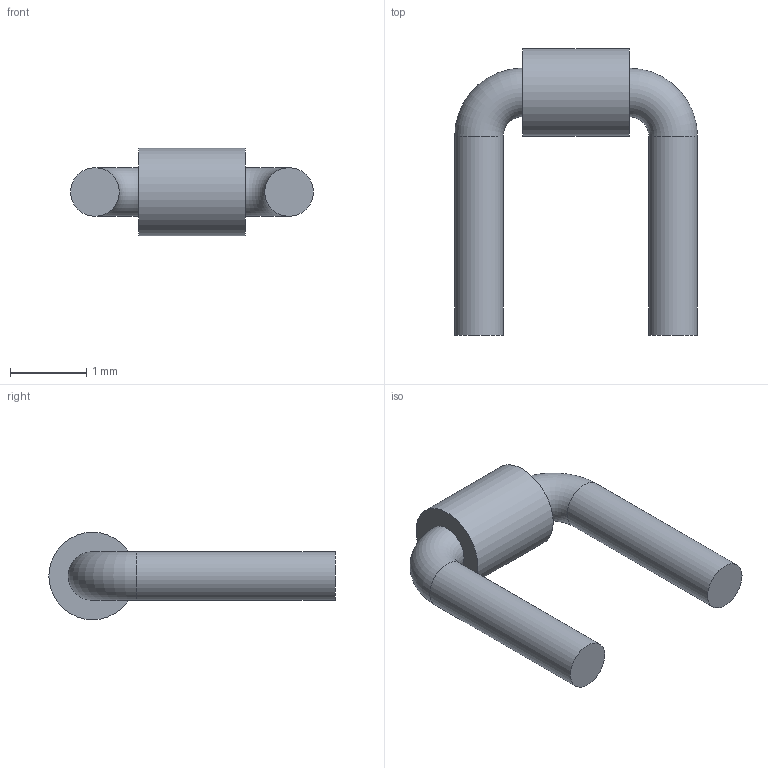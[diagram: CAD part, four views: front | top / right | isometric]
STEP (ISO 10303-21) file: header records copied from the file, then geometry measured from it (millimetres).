
FILE_DESCRIPTION(/* description */ ('STEP AP214'),/* implementation_level */ '2;1');
FILE_NAME(/* name */ 'JL-100-25-T',/* time_stamp */ '2025-05-12T21:40:02+02:00',/* author */ ('License CC BY-ND 4.0'),/* organization */ ('CADENAS'),/* preprocessor_version */ 'ST-DEVELOPER v19.3',/* originating_system */ 'PARTsolutions',/* authorisation */ ' ');
FILE_SCHEMA (('AUTOMOTIVE_DESIGN {1 0 10303 214 3 1 1}'));
Length unit declared in the file: inch
Products named in the file (1): JL-100-25-T
Bounding box: 3.17 x 3.75 x 1.14 mm (x, y, z)
Volume: 3.7 mm3; surface area: 21 mm2
Topology: 1 solids, 1 shells, 9 faces, 15 edges, 10 vertices
Faces by surface type: plane 4, cylinder 3, torus 2
Full cylindrical faces by diameter (mm): 0.635 x2, 1.143 x1
Entity records: 206 total; most frequent: DIRECTION 36, CARTESIAN_POINT 26, AXIS2_PLACEMENT_3D 18, ORIENTED_EDGE 16, EDGE_LOOP 16, FACE_BOUND 16, ADVANCED_FACE 9, EDGE_CURVE 8
